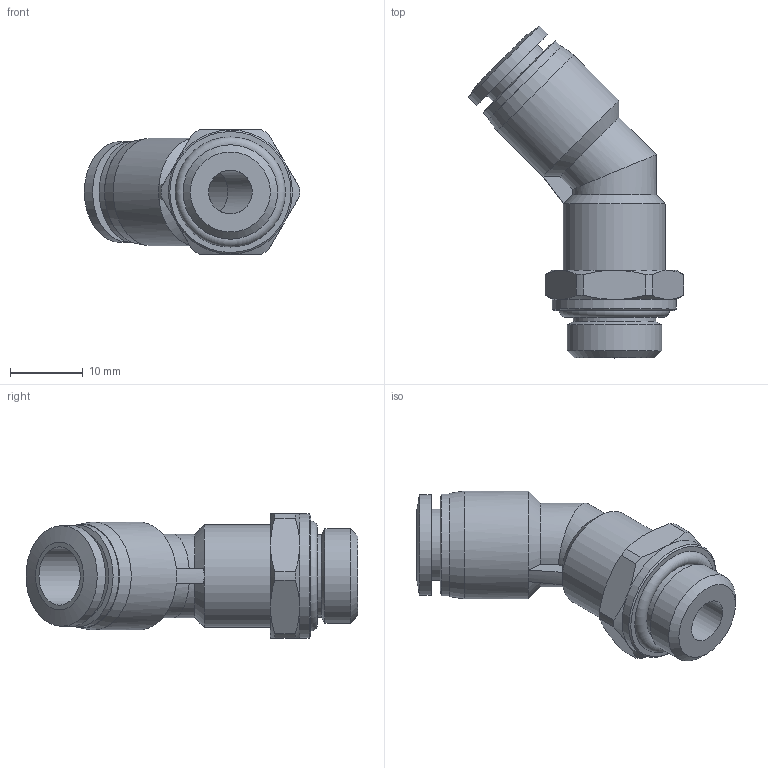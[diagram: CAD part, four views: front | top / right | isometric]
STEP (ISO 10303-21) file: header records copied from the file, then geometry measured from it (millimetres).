
FILE_DESCRIPTION(/* description */ (''),/* implementation_level */ '2;1');
FILE_NAME(/* name */ 'D:\CDC pneumatics\inventor\PL 45\G 나사\PL 45 08-G02.stp',/* time_stamp */ '2015-11-18T11:00:01+09:00',/* author */ ('DIAMOND'),/* organization */ (''),/* preprocessor_version */ 'ST-DEVELOPER v15.6',/* originating_system */ 'Autodesk Inventor 2015',/* authorisation */ '');
FILE_SCHEMA (('AUTOMOTIVE_DESIGN { 1 0 10303 214 3 1 1 }'));
Length unit declared in the file: millimetre
Products named in the file (1): PL 45 08-G02
Bounding box: 29.52 x 45.5 x 17 mm (x, y, z)
Volume: 5468.9 mm3; surface area: 3747.7 mm2
Topology: 1 solids, 1 shells, 61 faces, 134 edges, 81 vertices
Faces by surface type: cone 23, cylinder 19, plane 18, torus 1
Full cylindrical faces by diameter (mm): 6 x2, 8 x1, 9.8 x1, 11.3 x1, 11.5 x2, 12.95 x1, 13.8 x1, 14 x2, 14.8 x1, 17 x1
Entity records: 1544 total; most frequent: CARTESIAN_POINT 297, DIRECTION 274, ORIENTED_EDGE 226, AXIS2_PLACEMENT_3D 125, EDGE_CURVE 111, EDGE_LOOP 87, VERTEX_POINT 76, FACE_OUTER_BOUND 61
